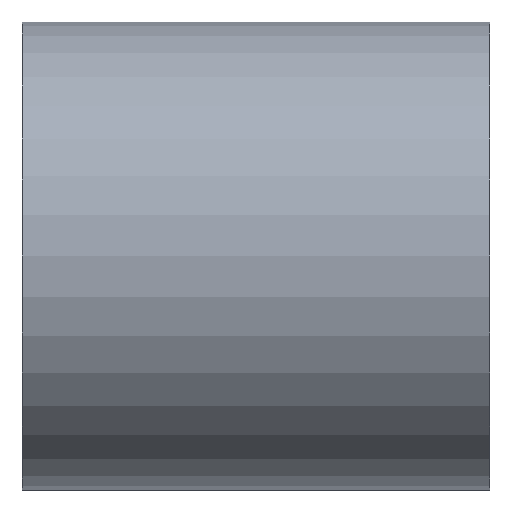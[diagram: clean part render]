
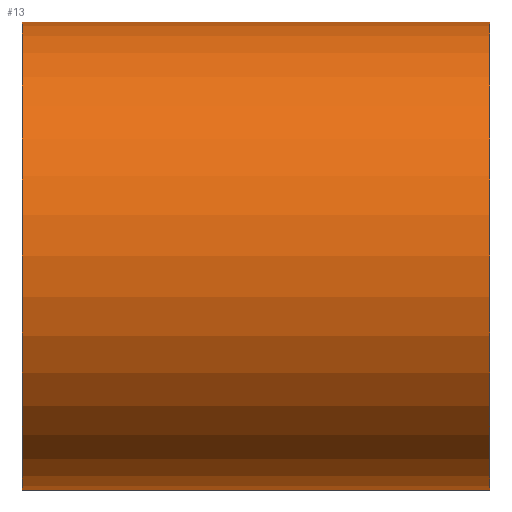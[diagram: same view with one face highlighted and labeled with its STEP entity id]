
A CAD part, left-side view. The second image highlights one B-rep face of the part: STEP entity #13.
In plain terms, the highlighted cylindrical face has radius 12.7 mm (diameter 25.4 mm), a partial arc.
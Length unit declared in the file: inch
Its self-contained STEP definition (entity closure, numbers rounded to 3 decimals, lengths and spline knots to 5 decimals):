
#13 = ADVANCED_FACE ( 'NONE', ( #35 ), #54, .T. ) ;
#35 = FACE_OUTER_BOUND ( 'NONE', #112, .T. ) ;
#54 = CYLINDRICAL_SURFACE ( 'NONE', #355, 0.5 ) ;
#67 = ORIENTED_EDGE ( 'NONE', *, *, #327, .F. ) ;
#85 = ORIENTED_EDGE ( 'NONE', *, *, #362, .F. ) ;
#87 = ORIENTED_EDGE ( 'NONE', *, *, #326, .T. ) ;
#94 = ORIENTED_EDGE ( 'NONE', *, *, #364, .T. ) ;
#112 = EDGE_LOOP ( 'NONE', ( #85, #67, #87, #94 ) ) ;
#125 = VERTEX_POINT ( 'NONE', #234 ) ;
#126 = VERTEX_POINT ( 'NONE', #236 ) ;
#129 = VERTEX_POINT ( 'NONE', #256 ) ;
#141 = VERTEX_POINT ( 'NONE', #262 ) ;
#152 = CARTESIAN_POINT ( 'NONE',  ( 0., 0.5, 0. ) ) ;
#154 = DIRECTION ( 'NONE',  ( 0., -1., 0. ) ) ;
#160 = DIRECTION ( 'NONE',  ( 0., 0., -1. ) ) ;
#231 = CARTESIAN_POINT ( 'NONE',  ( 0., 0.5, -0.5 ) ) ;
#234 = CARTESIAN_POINT ( 'NONE',  ( 0., 0.5, -0.5 ) ) ;
#236 = CARTESIAN_POINT ( 'NONE',  ( 0., -0.5, 0.5 ) ) ;
#244 = DIRECTION ( 'NONE',  ( 0., -1., 0. ) ) ;
#246 = DIRECTION ( 'NONE',  ( 0., 0., 1. ) ) ;
#254 = CARTESIAN_POINT ( 'NONE',  ( 0., 0.5, 0. ) ) ;
#256 = CARTESIAN_POINT ( 'NONE',  ( 0., -0.5, -0.5 ) ) ;
#261 = DIRECTION ( 'NONE',  ( 0., 1., 0. ) ) ;
#262 = CARTESIAN_POINT ( 'NONE',  ( 0., 0.5, 0.5 ) ) ;
#274 = CARTESIAN_POINT ( 'NONE',  ( 0., 0.5, 0.5 ) ) ;
#277 = DIRECTION ( 'NONE',  ( 0., 1., 0. ) ) ;
#279 = CARTESIAN_POINT ( 'NONE',  ( 0., -0.5, 0. ) ) ;
#282 = DIRECTION ( 'NONE',  ( 0., 0., 1. ) ) ;
#289 = DIRECTION ( 'NONE',  ( 0., -1., 0. ) ) ;
#294 = CIRCLE ( 'NONE', #376, 0.5 ) ;
#296 = LINE ( 'NONE', #274, #302 ) ;
#302 = VECTOR ( 'NONE', #289, 39.37008 ) ;
#313 = LINE ( 'NONE', #231, #320 ) ;
#315 = CIRCLE ( 'NONE', #363, 0.5 ) ;
#320 = VECTOR ( 'NONE', #244, 39.37008 ) ;
#326 = EDGE_CURVE ( 'NONE', #125, #129, #313, .T. ) ;
#327 = EDGE_CURVE ( 'NONE', #125, #141, #315, .T. ) ;
#355 = AXIS2_PLACEMENT_3D ( 'NONE', #152, #154, #160 ) ;
#362 = EDGE_CURVE ( 'NONE', #141, #126, #296, .T. ) ;
#363 = AXIS2_PLACEMENT_3D ( 'NONE', #254, #261, #246 ) ;
#364 = EDGE_CURVE ( 'NONE', #129, #126, #294, .T. ) ;
#376 = AXIS2_PLACEMENT_3D ( 'NONE', #279, #277, #282 ) ;
